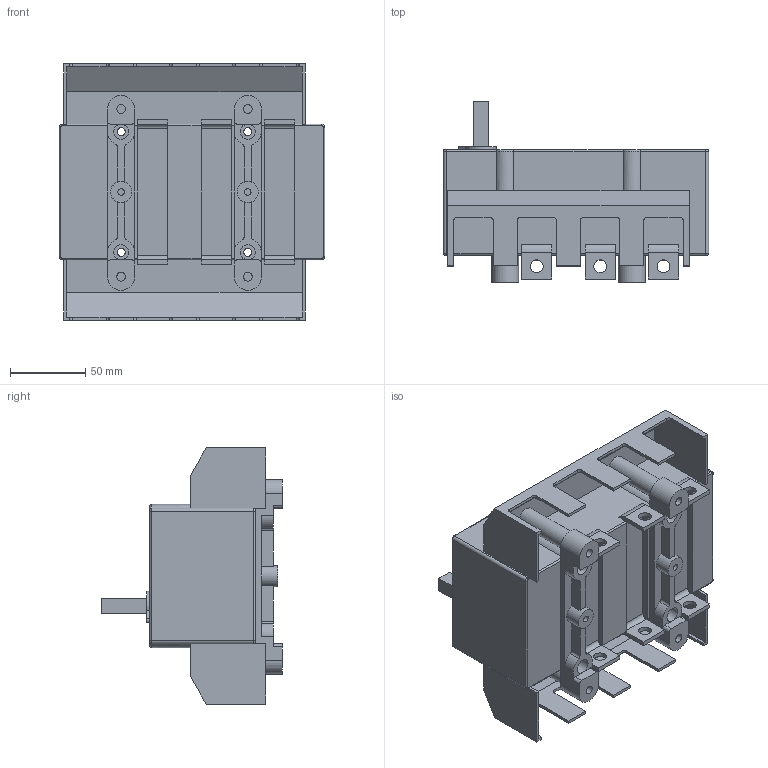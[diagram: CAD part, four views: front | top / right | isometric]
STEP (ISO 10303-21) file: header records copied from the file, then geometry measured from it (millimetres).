
FILE_DESCRIPTION(/* description */ (''),/* implementation_level */ '2;1');
FILE_NAME(/* name */ 'RA250 P3 C z oslona zaciskow.stp',/* time_stamp */ '2021-08-18T08:36:00+02:00',/* author */ (''),/* organization */ (''),/* preprocessor_version */ 'ST-DEVELOPER v18.1',/* originating_system */ 'SIEMENS PLM Software NX 1965',/* authorisation */ '');
FILE_SCHEMA (('AUTOMOTIVE_DESIGN { 1 0 10303 214 3 1 1 1 }'));
Length unit declared in the file: millimetre
Products named in the file (1): RA250 P3 C z oslona zaciskow_stp
Bounding box: 176 x 120 x 169.8 mm (x, y, z)
Volume: 1211413.4 mm3; surface area: 156803.3 mm2
Topology: 1 solids, 1 shells, 314 faces, 900 edges, 586 vertices
Faces by surface type: plane 172, cylinder 130, torus 7, bspline 5
Full cylindrical faces by diameter (mm): 4.3 x2, 5.3 x4, 5.8 x4, 8.5 x6, 10 x12, 13 x4, 14 x2
Entity records: 10171 total; most frequent: CARTESIAN_POINT 1886, DIRECTION 1748, ORIENTED_EDGE 1692, EDGE_CURVE 846, AXIS2_PLACEMENT_3D 608, VERTEX_POINT 566, LINE 532, VECTOR 532
